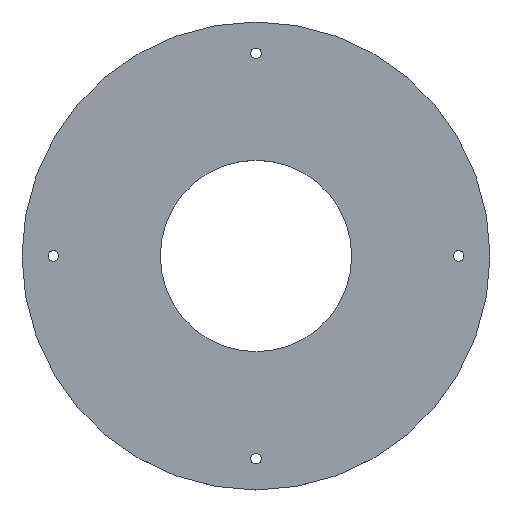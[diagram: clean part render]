
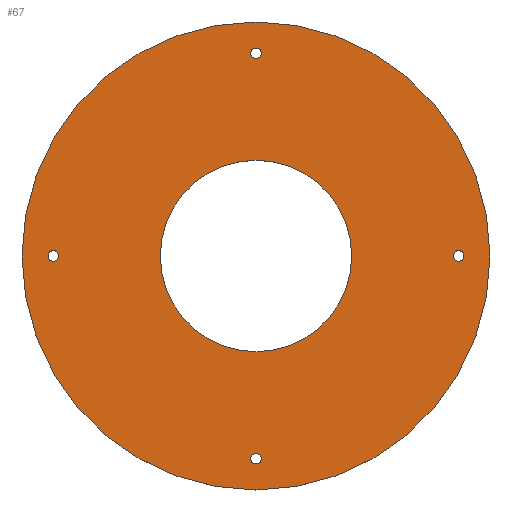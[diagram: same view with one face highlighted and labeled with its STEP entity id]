
A CAD part, top view. The second image highlights one B-rep face of the part: STEP entity #67.
In plain terms, the highlighted planar face has unit normal (0, 0, 1).
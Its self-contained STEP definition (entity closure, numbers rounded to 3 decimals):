
#67=ADVANCED_FACE('',(#147,#149,#151,#153,#155,#157),#159,.T.);
#147=FACE_BOUND('',#148,.T.);
#148=EDGE_LOOP('',(#224));
#149=FACE_BOUND('',#150,.T.);
#150=EDGE_LOOP('',(#225));
#151=FACE_BOUND('',#152,.T.);
#152=EDGE_LOOP('',(#226));
#153=FACE_BOUND('',#154,.T.);
#154=EDGE_LOOP('',(#227));
#155=FACE_BOUND('',#156,.T.);
#156=EDGE_LOOP('',(#228));
#157=FACE_BOUND('',#158,.T.);
#158=EDGE_LOOP('',(#229));
#159=PLANE('',#160);
#160=AXIS2_PLACEMENT_3D('',#161,#162,#163);
#161=CARTESIAN_POINT('',(0.,0.,0.));
#162=DIRECTION('',(0.,0.,1.));
#163=DIRECTION('',(1.,0.,0.));
#224=ORIENTED_EDGE('',*,*,#248,.T.);
#225=ORIENTED_EDGE('',*,*,#249,.T.);
#226=ORIENTED_EDGE('',*,*,#250,.T.);
#227=ORIENTED_EDGE('',*,*,#251,.T.);
#228=ORIENTED_EDGE('',*,*,#252,.T.);
#229=ORIENTED_EDGE('',*,*,#253,.T.);
#248=EDGE_CURVE('',#266,#266,#267,.T.);
#249=EDGE_CURVE('',#268,#268,#269,.F.);
#250=EDGE_CURVE('',#270,#270,#271,.F.);
#251=EDGE_CURVE('',#272,#272,#273,.F.);
#252=EDGE_CURVE('',#274,#274,#275,.F.);
#253=EDGE_CURVE('',#276,#276,#277,.F.);
#266=VERTEX_POINT('',#308);
#267=CIRCLE('',#309,44.);
#268=VERTEX_POINT('',#313);
#269=CIRCLE('',#314,18.);
#270=VERTEX_POINT('',#318);
#271=CIRCLE('',#319,1.);
#272=VERTEX_POINT('',#323);
#273=CIRCLE('',#324,1.);
#274=VERTEX_POINT('',#328);
#275=CIRCLE('',#329,1.);
#276=VERTEX_POINT('',#333);
#277=CIRCLE('',#334,1.);
#308=CARTESIAN_POINT('',(44.,0.,0.));
#309=AXIS2_PLACEMENT_3D('',#310,#311,#312);
#310=CARTESIAN_POINT('',(0.,0.,0.));
#311=DIRECTION('',(0.,0.,1.));
#312=DIRECTION('',(1.,0.,0.));
#313=CARTESIAN_POINT('',(18.,0.,0.));
#314=AXIS2_PLACEMENT_3D('',#315,#316,#317);
#315=CARTESIAN_POINT('',(0.,0.,0.));
#316=DIRECTION('',(0.,0.,1.));
#317=DIRECTION('',(1.,0.,0.));
#318=CARTESIAN_POINT('',(-37.1,0.,0.));
#319=AXIS2_PLACEMENT_3D('',#320,#321,#322);
#320=CARTESIAN_POINT('',(-38.1,0.,0.));
#321=DIRECTION('',(0.,0.,1.));
#322=DIRECTION('',(1.,0.,0.));
#323=CARTESIAN_POINT('',(37.1,0.,0.));
#324=AXIS2_PLACEMENT_3D('',#325,#326,#327);
#325=CARTESIAN_POINT('',(38.1,0.,0.));
#326=DIRECTION('',(0.,0.,1.));
#327=DIRECTION('',(-1.,0.,0.));
#328=CARTESIAN_POINT('',(0.,-37.1,0.));
#329=AXIS2_PLACEMENT_3D('',#330,#331,#332);
#330=CARTESIAN_POINT('',(0.,-38.1,0.));
#331=DIRECTION('',(0.,0.,1.));
#332=DIRECTION('',(0.,1.,0.));
#333=CARTESIAN_POINT('',(0.,37.1,0.));
#334=AXIS2_PLACEMENT_3D('',#335,#336,#337);
#335=CARTESIAN_POINT('',(0.,38.1,0.));
#336=DIRECTION('',(0.,0.,1.));
#337=DIRECTION('',(0.,-1.,0.));
